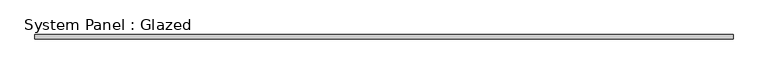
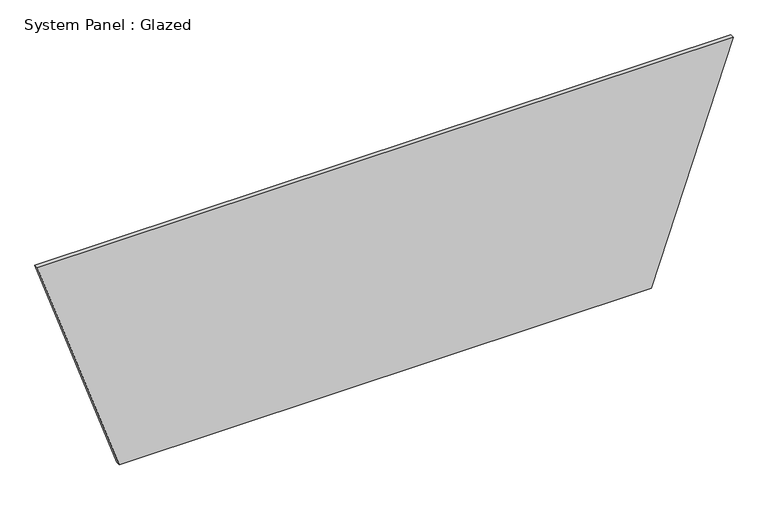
"""IFC4 building model written with IfcOpenShell, lengths in millimetres: plate geometry, System Panel : Glazed."""

from ifc_helpers import new_model, si_unit, frame, origin, place, context, project, spatial, polyline, outline, extrude, source, transform, mapped, element, save


def system_panel_glazed_6bfca4de(model_context):
    return source(origin(), model_context, "Body", "SweptSolid", [
        extrude(outline(polyline([(0.0, -1536.9836323), (0.0, 1536.9836323), (1367.7020512, 2009.7227132), (1367.7020512, -2009.7227132), (0.0, -1536.9836323)])), frame((0.0, -49.5, 0.0), z_axis=(0.0, 1.0, 0.0), x_axis=(0.0, 0.0, 1.0)), (0.0, 0.0, 1.0), 25.0),
    ])


if __name__ == "__main__":
    model = new_model("IFC4")
    model_context = context("Model", 3, world=origin())
    ifc_project = project(units=[si_unit("LENGTHUNIT", "METRE", prefix="MILLI")], contexts=[model_context])
    site = spatial("IfcSite", under=ifc_project)
    building = spatial("IfcBuilding", under=site)
    placement = place(None, origin())
    system_panel_glazed_shape = system_panel_glazed_6bfca4de(model_context)
    element("IfcPlate", 1, ObjectType="System Panel : Glazed", at=placement, inside=building, context=model_context, shape_type="MappedRepresentation", body=[
        mapped(system_panel_glazed_shape, transform((0.0, 0.0, 0.0), x_axis=(1.0, 0.0, 0.0), y_axis=(0.0, 1.0, 0.0), z_axis=(0.0, 0.0, 1.0))),
    ])
    save(model, "model.ifc")
